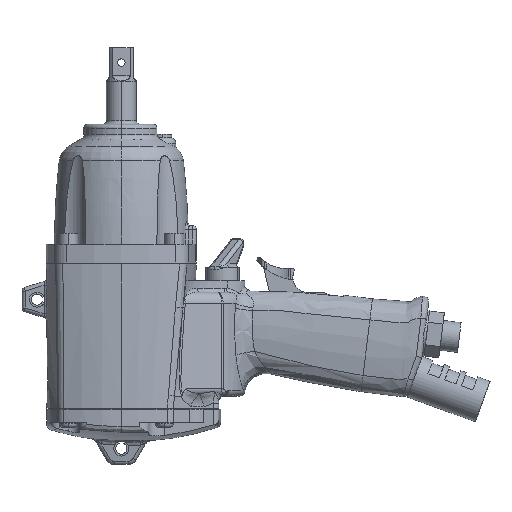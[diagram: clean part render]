
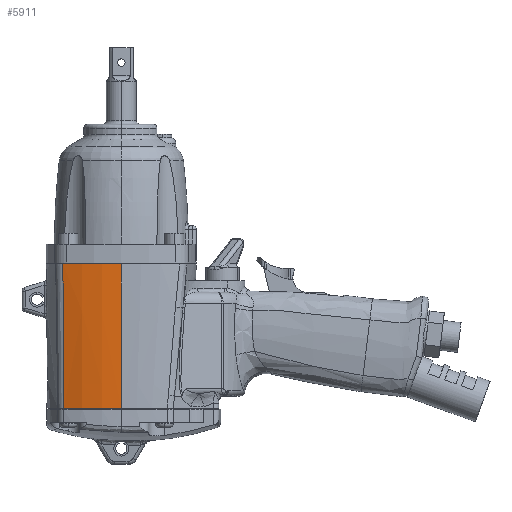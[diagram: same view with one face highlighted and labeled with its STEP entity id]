
A CAD part, left-side view. The second image highlights one B-rep face of the part: STEP entity #5911.
In plain terms, the highlighted free-form (B-spline) face has degree [3, 3] with [4, 8] control points.
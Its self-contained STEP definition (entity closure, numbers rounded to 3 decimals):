
#4269 = VERTEX_POINT ( 'NONE', #27079 ) ;
#4271 = EDGE_CURVE ( 'NONE', #4272, #4269, #27078, .T. ) ;
#4272 = VERTEX_POINT ( 'NONE', #27073 ) ;
#5910 = EDGE_CURVE ( 'NONE', #5920, #4272, #35455, .T. ) ;
#5911 = ADVANCED_FACE ( 'NONE', ( #35451 ), #35450, .T. ) ;
#5912 = EDGE_LOOP ( 'NONE', ( #5913, #5914, #5915, #5916 ) ) ;
#5913 = ORIENTED_EDGE ( 'NONE', *, *, #5922, .F. ) ;
#5914 = ORIENTED_EDGE ( 'NONE', *, *, #5910, .T. ) ;
#5915 = ORIENTED_EDGE ( 'NONE', *, *, #4271, .T. ) ;
#5916 = ORIENTED_EDGE ( 'NONE', *, *, #5917, .F. ) ;
#5917 = EDGE_CURVE ( 'NONE', #5931, #4269, #34668, .T. ) ;
#5920 = VERTEX_POINT ( 'NONE', #34663 ) ;
#5922 = EDGE_CURVE ( 'NONE', #5920, #5931, #34662, .T. ) ;
#5931 = VERTEX_POINT ( 'NONE', #35523 ) ;
#27073 = CARTESIAN_POINT ( 'NONE',  ( -33.895, 30.652, -77. ) ) ;
#27074 = DIRECTION ( 'NONE',  ( 1., 0., 0. ) ) ;
#27075 = DIRECTION ( 'NONE',  ( 0., 0., 1. ) ) ;
#27076 = CARTESIAN_POINT ( 'NONE',  ( 40., 0., -77. ) ) ;
#27077 = AXIS2_PLACEMENT_3D ( 'NONE', #27076, #27075, #27074 ) ;
#27078 = CIRCLE ( 'NONE', #27077, 80. ) ;
#27079 = CARTESIAN_POINT ( 'NONE',  ( -40., 0., -77. ) ) ;
#34658 = DIRECTION ( 'NONE',  ( 1., 0., 0. ) ) ;
#34659 = DIRECTION ( 'NONE',  ( 0., 0., 1. ) ) ;
#34660 = CARTESIAN_POINT ( 'NONE',  ( 60., 0., 0. ) ) ;
#34661 = AXIS2_PLACEMENT_3D ( 'NONE', #34660, #34659, #34658 ) ;
#34662 = CIRCLE ( 'NONE', #34661, 100. ) ;
#34663 = CARTESIAN_POINT ( 'NONE',  ( -35.014, 31.184, 0. ) ) ;
#34664 = VECTOR ( 'NONE', #34667, 1000. ) ;
#34665 = CARTESIAN_POINT ( 'NONE',  ( -40., 0., -38.5 ) ) ;
#34667 = DIRECTION ( 'NONE',  ( 0., 0., -1. ) ) ;
#34668 = LINE ( 'NONE', #34665, #34664 ) ;
#35450 =( BOUNDED_SURFACE ( )  B_SPLINE_SURFACE ( 3, 3, ( 
 ( #35490, #35489, #35488, #35487, #35486, #35485, #35484, #35483 ),
 ( #35482, #35481, #35480, #35479, #35478, #35477, #35476, #35475 ),
 ( #35474, #35473, #35472, #35471, #35470, #35469, #35468, #35467 ),
 ( #35466, #35465, #35464, #35463, #35462, #35461, #35460, #35459 ) ),
 .UNSPECIFIED., .F., .F., .T. ) 
 B_SPLINE_SURFACE_WITH_KNOTS ( ( 4, 4 ),
 ( 4, 1, 1, 1, 1, 4 ),
 ( 0.143, 0.286 ),
 ( 0., 0.167, 0.333, 0.667, 0.833, 1. ),
 .UNSPECIFIED. ) 
 GEOMETRIC_REPRESENTATION_ITEM ( )  RATIONAL_B_SPLINE_SURFACE ( (
 ( 1., 1., 1., 1., 1., 1., 1., 1.),
 ( 0.992, 0.992, 0.991, 0.99, 0.989, 0.988, 0.987, 0.987),
 ( 0.992, 0.992, 0.991, 0.99, 0.989, 0.988, 0.987, 0.987),
 ( 1., 1., 1., 1., 1., 1., 1., 1.) ) ) 
 REPRESENTATION_ITEM ( '' )  SURFACE ( )  );
#35451 = FACE_OUTER_BOUND ( 'NONE', #5912, .T. ) ;
#35452 = DIRECTION ( 'NONE',  ( 0.015, -0.007, -1. ) ) ;
#35453 = VECTOR ( 'NONE', #35452, 1000. ) ;
#35454 = CARTESIAN_POINT ( 'NONE',  ( -34.454, 30.918, -38.5 ) ) ;
#35455 = LINE ( 'NONE', #35454, #35453 ) ;
#35459 = CARTESIAN_POINT ( 'NONE',  ( -33.895, 30.652, -77. ) ) ;
#35460 = CARTESIAN_POINT ( 'NONE',  ( -33.957, 30.681, -72.722 ) ) ;
#35461 = CARTESIAN_POINT ( 'NONE',  ( -34.081, 30.74, -64.167 ) ) ;
#35462 = CARTESIAN_POINT ( 'NONE',  ( -34.33, 30.859, -47.056 ) ) ;
#35463 = CARTESIAN_POINT ( 'NONE',  ( -34.579, 30.977, -29.944 ) ) ;
#35464 = CARTESIAN_POINT ( 'NONE',  ( -34.827, 31.095, -12.833 ) ) ;
#35465 = CARTESIAN_POINT ( 'NONE',  ( -34.951, 31.154, -4.278 ) ) ;
#35466 = CARTESIAN_POINT ( 'NONE',  ( -35.014, 31.184, 0. ) ) ;
#35467 = CARTESIAN_POINT ( 'NONE',  ( -37.939, 20.904, -77. ) ) ;
#35468 = CARTESIAN_POINT ( 'NONE',  ( -37.954, 20.933, -72.404 ) ) ;
#35469 = CARTESIAN_POINT ( 'NONE',  ( -37.986, 20.991, -63.219 ) ) ;
#35470 = CARTESIAN_POINT ( 'NONE',  ( -38.066, 21.05, -45.737 ) ) ;
#35471 = CARTESIAN_POINT ( 'NONE',  ( -38.155, 21.087, -28.681 ) ) ;
#35472 = CARTESIAN_POINT ( 'NONE',  ( -38.249, 21.112, -11.977 ) ) ;
#35473 = CARTESIAN_POINT ( 'NONE',  ( -38.299, 21.102, -3.991 ) ) ;
#35474 = CARTESIAN_POINT ( 'NONE',  ( -38.324, 21.098, 0. ) ) ;
#35475 = CARTESIAN_POINT ( 'NONE',  ( -40., 10.553, -77. ) ) ;
#35476 = CARTESIAN_POINT ( 'NONE',  ( -40., 10.557, -72.693 ) ) ;
#35477 = CARTESIAN_POINT ( 'NONE',  ( -40., 10.564, -64.086 ) ) ;
#35478 = CARTESIAN_POINT ( 'NONE',  ( -40., 10.577, -46.945 ) ) ;
#35479 = CARTESIAN_POINT ( 'NONE',  ( -40., 10.591, -29.839 ) ) ;
#35480 = CARTESIAN_POINT ( 'NONE',  ( -40., 10.605, -12.762 ) ) ;
#35481 = CARTESIAN_POINT ( 'NONE',  ( -40., 10.612, -4.252 ) ) ;
#35482 = CARTESIAN_POINT ( 'NONE',  ( -40., 10.615, 0. ) ) ;
#35483 = CARTESIAN_POINT ( 'NONE',  ( -40., 0., -77. ) ) ;
#35484 = CARTESIAN_POINT ( 'NONE',  ( -40., 0., -72.722 ) ) ;
#35485 = CARTESIAN_POINT ( 'NONE',  ( -40., 0., -64.167 ) ) ;
#35486 = CARTESIAN_POINT ( 'NONE',  ( -40., 0., -47.056 ) ) ;
#35487 = CARTESIAN_POINT ( 'NONE',  ( -40., 0., -29.944 ) ) ;
#35488 = CARTESIAN_POINT ( 'NONE',  ( -40., 0., -12.833 ) ) ;
#35489 = CARTESIAN_POINT ( 'NONE',  ( -40., 0., -4.278 ) ) ;
#35490 = CARTESIAN_POINT ( 'NONE',  ( -40., 0., 0. ) ) ;
#35523 = CARTESIAN_POINT ( 'NONE',  ( -40., 0., 0. ) ) ;
